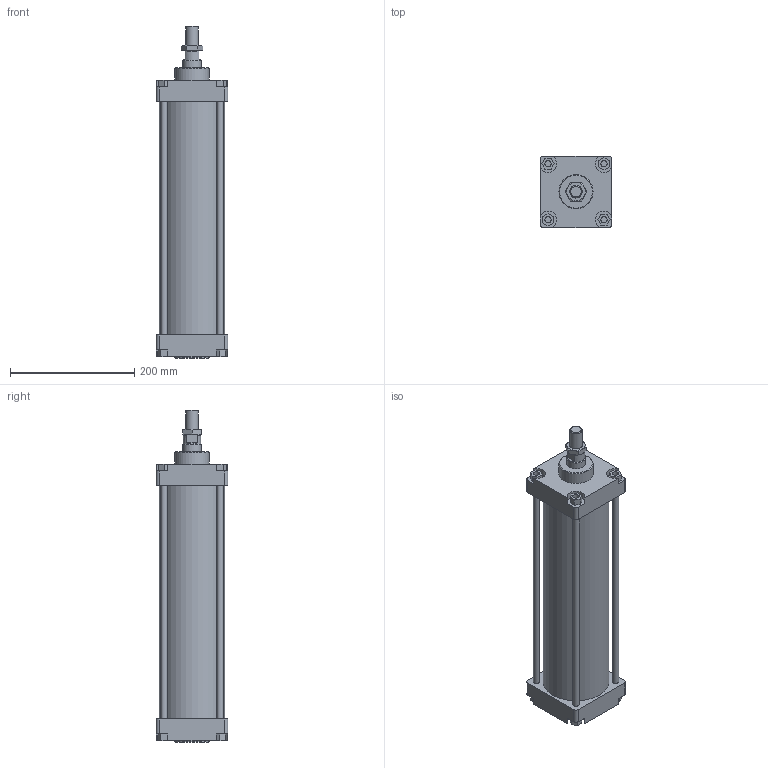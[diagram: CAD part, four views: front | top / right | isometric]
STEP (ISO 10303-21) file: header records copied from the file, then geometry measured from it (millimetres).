
FILE_DESCRIPTION(/* description */ (''),/* implementation_level */ '2;1');
FILE_NAME(/* name */ 'I:\Area Tecnica\Disegni\VARIE-3D\Componenti\CSP\Ø100\130#_100_####_###\130#_100_0300_01A.stp',/* time_stamp */ '2016-11-24T13:51:37+01:00',/* author */ ('Maniean1'),/* organization */ ('Pneumax S.p.A.'),/* preprocessor_version */ 'ST-DEVELOPER v15.2',/* originating_system */ 'Autodesk Inventor 2014',/* authorisation */ '');
FILE_SCHEMA (('AUTOMOTIVE_DESIGN { 1 0 10303 214 3 1 1 }'));
Length unit declared in the file: millimetre
Products named in the file (6): C_130#_100_0300; Testata anteriore_100; Testata posteriore_100; S_130#_100_0300_01A; 130#_100_18F; 130#_100_0300_01A
Bounding box: 115 x 115 x 534 mm (x, y, z)
Volume: 2202914.8 mm3; surface area: 484060.9 mm2
Topology: 9 solids, 9 shells, 162 faces, 380 edges, 249 vertices
Faces by surface type: plane 105, cylinder 42, cone 15
Full cylindrical faces by diameter (mm): 10 x12, 18.376 x1, 18.5 x1, 19 x2, 20 x1, 28 x1, 30 x3, 55 x2, 100 x2, 106 x1
Entity records: 4530 total; most frequent: CARTESIAN_POINT 785, DIRECTION 764, ORIENTED_EDGE 672, EDGE_CURVE 336, AXIS2_PLACEMENT_3D 271, VERTEX_POINT 244, EDGE_LOOP 236, LINE 222
